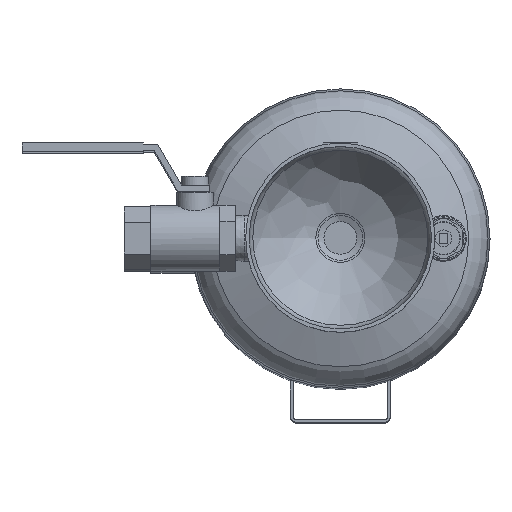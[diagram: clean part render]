
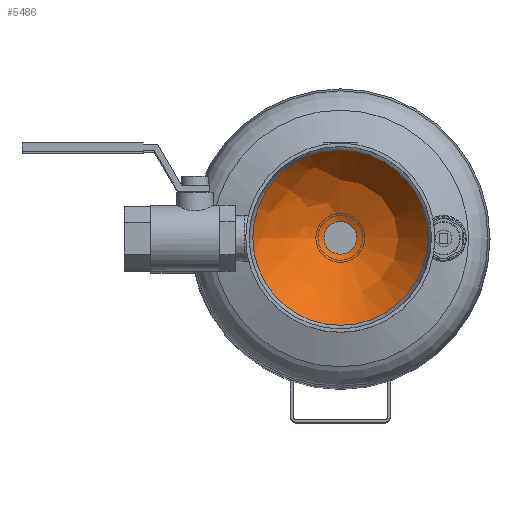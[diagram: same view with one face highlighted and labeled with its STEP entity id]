
A CAD part, top view. The second image highlights one B-rep face of the part: STEP entity #5486.
In plain terms, the highlighted free-form (B-spline) face has degree [2, 2] with [3, 9] control points.
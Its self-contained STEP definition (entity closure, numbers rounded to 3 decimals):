
#14=(
BOUNDED_SURFACE()
B_SPLINE_SURFACE(2,2,((#9514,#9515,#9516,#9517,#9518,#9519,#9520,#9521,
#9522),(#9523,#9524,#9525,#9526,#9527,#9528,#9529,#9530,#9531),(#9532,#9533,
#9534,#9535,#9536,#9537,#9538,#9539,#9540)),.UNSPECIFIED.,.F.,.T.,.F.)
B_SPLINE_SURFACE_WITH_KNOTS((3,3),(3,2,2,2,3),(-1.405,-0.49),
(-3.142,-1.571,0.,1.571,3.142),
 .UNSPECIFIED.)
GEOMETRIC_REPRESENTATION_ITEM()
RATIONAL_B_SPLINE_SURFACE(((1.,0.707,1.,0.707,1.,
0.707,1.,0.707,1.),(0.897,0.634,
0.897,0.634,0.897,0.634,
0.897,0.634,0.897),(1.,0.707,
1.,0.707,1.,0.707,1.,0.707,1.)))
REPRESENTATION_ITEM('')
SURFACE()
);
#315=CIRCLE('',#6007,50.883);
#316=CIRCLE('',#6008,50.883);
#317=CIRCLE('',#6009,57.667);
#318=CIRCLE('',#6010,9.501);
#319=CIRCLE('',#6011,9.501);
#702=FACE_OUTER_BOUND('',#1042,.T.);
#1042=EDGE_LOOP('',(#4621,#4622,#4623,#4624,#4625,#4626));
#2506=VERTEX_POINT('',#9509);
#2507=VERTEX_POINT('',#9511);
#2508=VERTEX_POINT('',#9541);
#2509=VERTEX_POINT('',#9543);
#3242=EDGE_CURVE('',#2507,#2506,#315,.T.);
#3243=EDGE_CURVE('',#2506,#2507,#316,.T.);
#3244=EDGE_CURVE('',#2506,#2508,#317,.T.);
#3245=EDGE_CURVE('',#2509,#2508,#318,.T.);
#3246=EDGE_CURVE('',#2508,#2509,#319,.T.);
#4621=ORIENTED_EDGE('',*,*,#3242,.T.);
#4622=ORIENTED_EDGE('',*,*,#3244,.T.);
#4623=ORIENTED_EDGE('',*,*,#3245,.F.);
#4624=ORIENTED_EDGE('',*,*,#3246,.F.);
#4625=ORIENTED_EDGE('',*,*,#3244,.F.);
#4626=ORIENTED_EDGE('',*,*,#3243,.T.);
#5486=ADVANCED_FACE('',(#702),#14,.T.);
#6007=AXIS2_PLACEMENT_3D('',#9512,#7448,#7449);
#6008=AXIS2_PLACEMENT_3D('',#9513,#7450,#7451);
#6009=AXIS2_PLACEMENT_3D('',#9542,#7452,#7453);
#6010=AXIS2_PLACEMENT_3D('',#9544,#7454,#7455);
#6011=AXIS2_PLACEMENT_3D('',#9545,#7456,#7457);
#7448=DIRECTION('center_axis',(0.,0.,1.));
#7449=DIRECTION('ref_axis',(1.,0.,0.));
#7450=DIRECTION('center_axis',(0.,0.,1.));
#7451=DIRECTION('ref_axis',(1.,0.,0.));
#7452=DIRECTION('center_axis',(0.,-1.,0.));
#7453=DIRECTION('ref_axis',(-1.,0.,0.));
#7454=DIRECTION('center_axis',(0.,0.,1.));
#7455=DIRECTION('ref_axis',(1.,0.,0.));
#7456=DIRECTION('center_axis',(0.,0.,1.));
#7457=DIRECTION('ref_axis',(1.,0.,0.));
#9509=CARTESIAN_POINT('',(-50.884,0.,869.056));
#9511=CARTESIAN_POINT('',(50.882,0.,869.056));
#9512=CARTESIAN_POINT('Origin',(-0.001,0.,869.056));
#9513=CARTESIAN_POINT('Origin',(-0.001,0.,869.056));
#9514=CARTESIAN_POINT('Ctrl Pts',(-9.501,0.,839.314));
#9515=CARTESIAN_POINT('Ctrl Pts',(-9.501,-9.501,839.314));
#9516=CARTESIAN_POINT('Ctrl Pts',(-0.001,-9.501,
839.314));
#9517=CARTESIAN_POINT('Ctrl Pts',(9.5,-9.501,839.314));
#9518=CARTESIAN_POINT('Ctrl Pts',(9.5,0.,839.314));
#9519=CARTESIAN_POINT('Ctrl Pts',(9.5,9.501,839.314));
#9520=CARTESIAN_POINT('Ctrl Pts',(-0.001,9.501,
839.314));
#9521=CARTESIAN_POINT('Ctrl Pts',(-9.501,9.501,839.314));
#9522=CARTESIAN_POINT('Ctrl Pts',(-9.501,0.,839.314));
#9523=CARTESIAN_POINT('Ctrl Pts',(-37.517,0.,843.993));
#9524=CARTESIAN_POINT('Ctrl Pts',(-37.517,-37.517,843.993));
#9525=CARTESIAN_POINT('Ctrl Pts',(-0.001,-37.517,
843.993));
#9526=CARTESIAN_POINT('Ctrl Pts',(37.516,-37.517,843.993));
#9527=CARTESIAN_POINT('Ctrl Pts',(37.516,0.,843.993));
#9528=CARTESIAN_POINT('Ctrl Pts',(37.516,37.517,843.993));
#9529=CARTESIAN_POINT('Ctrl Pts',(-0.001,37.517,
843.993));
#9530=CARTESIAN_POINT('Ctrl Pts',(-37.517,37.517,843.993));
#9531=CARTESIAN_POINT('Ctrl Pts',(-37.517,0.,843.993));
#9532=CARTESIAN_POINT('Ctrl Pts',(-50.884,0.,869.056));
#9533=CARTESIAN_POINT('Ctrl Pts',(-50.884,-50.883,869.056));
#9534=CARTESIAN_POINT('Ctrl Pts',(-0.001,-50.883,
869.056));
#9535=CARTESIAN_POINT('Ctrl Pts',(50.882,-50.883,869.056));
#9536=CARTESIAN_POINT('Ctrl Pts',(50.882,0.,869.056));
#9537=CARTESIAN_POINT('Ctrl Pts',(50.882,50.883,869.056));
#9538=CARTESIAN_POINT('Ctrl Pts',(-0.001,50.883,
869.056));
#9539=CARTESIAN_POINT('Ctrl Pts',(-50.884,50.883,869.056));
#9540=CARTESIAN_POINT('Ctrl Pts',(-50.884,0.,869.056));
#9541=CARTESIAN_POINT('',(-9.501,0.,839.314));
#9542=CARTESIAN_POINT('Origin',(-0.001,0.,
896.193));
#9543=CARTESIAN_POINT('',(9.5,0.,839.314));
#9544=CARTESIAN_POINT('Origin',(-0.001,0.,839.314));
#9545=CARTESIAN_POINT('Origin',(-0.001,0.,839.314));
